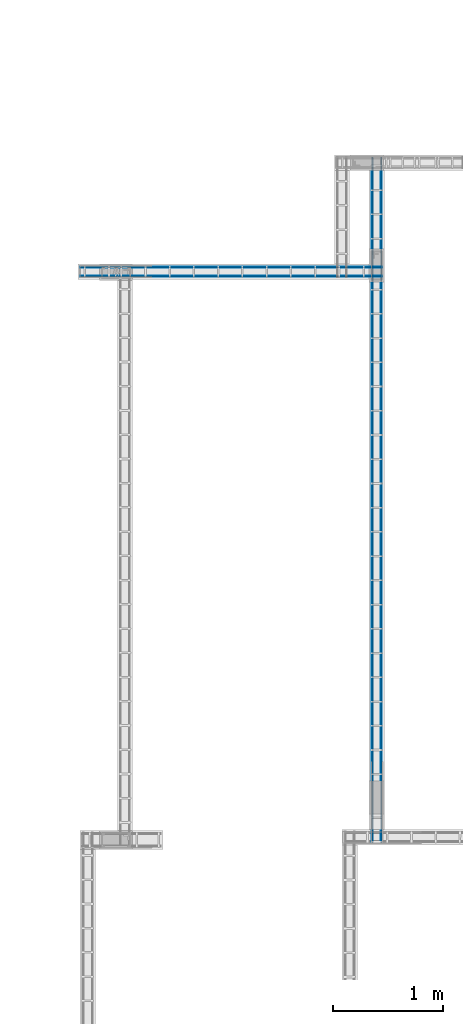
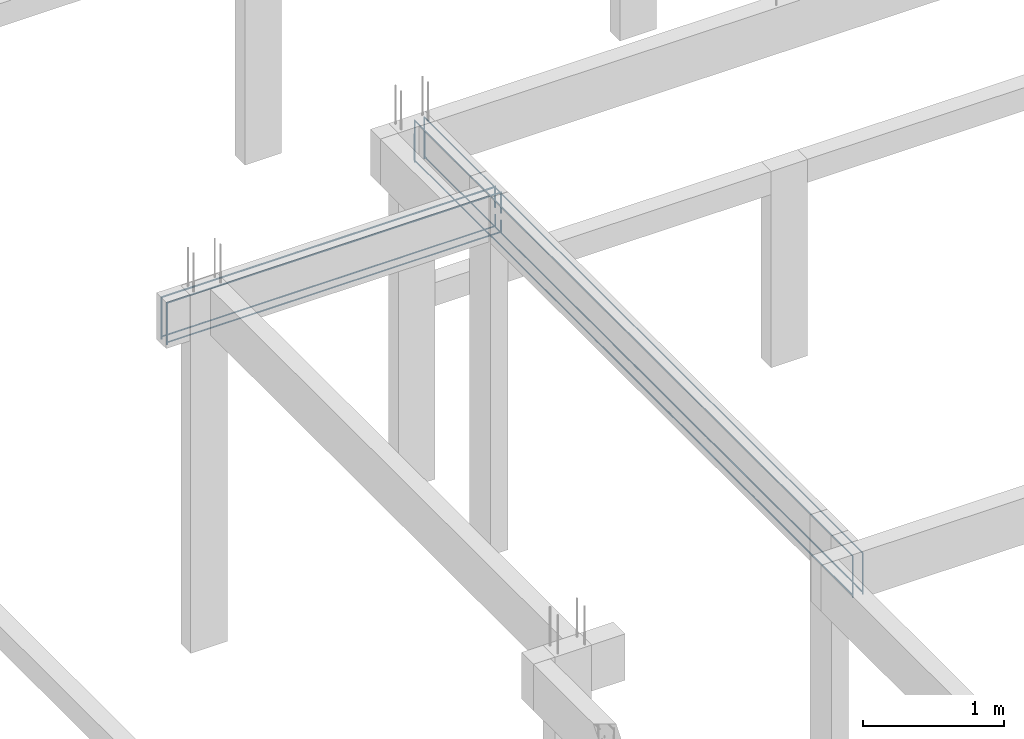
# One storey, part 124 of 236: 8 reinforcing bars.
"""IFC4 building model written with IfcOpenShell, lengths in centimetres."""

import ifcopenshell
import ifcopenshell.guid

model = None  # the IFC model being written
_history = None  # IfcOwnerHistory: only IFC2X3 demands one
_inside = {}  # id of a spatial element -> (the spatial element, [elements in it])
_under = {}  # id of a project, library or spatial element -> (it, [spatial elements below it])
_declared = {}  # id of a project -> (the project, [libraries it declares])
_typed = {}  # id of a type object -> (the type object, [elements of that type])
_made_of = {}  # id of a material, layer set ... -> (it, [elements and type objects made of it])


def new_model(schema):
    """Start an empty IFC model of exactly this schema.

    Asked for "IFC4X3", IfcOpenShell would pick the latest addendum, in which some entities
    have other attributes; the version numbers below select the first issue.
    IFC2X3 requires an IfcOwnerHistory on every rooted entity: one is made here for all.
    """
    global model, _history
    if schema == "IFC4X3":
        model = ifcopenshell.file(schema_version=(4, 3, 0, 0))
    else:
        model = ifcopenshell.file(schema=schema)
    _inside.clear()
    _under.clear()
    _declared.clear()
    _typed.clear()
    _made_of.clear()
    _history = None
    if model.schema == "IFC2X3":
        org = make("IfcOrganization", Name="unknown")
        user = make(
            "IfcPersonAndOrganization",
            ThePerson=make("IfcPerson", FamilyName="unknown"),
            TheOrganization=org,
        )
        app = make(
            "IfcApplication",
            ApplicationDeveloper=org,
            Version="unknown",
            ApplicationFullName="unknown",
            ApplicationIdentifier="unknown",
        )
        _history = make(
            "IfcOwnerHistory",
            OwningUser=user,
            OwningApplication=app,
            ChangeAction="ADDED",
            CreationDate=0,
        )
    return model


def make(cls, **values):
    """One entity of the class cls with the attributes given. An attribute that is None is left unset."""
    return model.create_entity(
        cls, **{name: value for name, value in values.items() if value is not None}
    )


def entity(cls, *values):
    """Any entity or typed value of the class cls, its attributes in the order of the schema. None: left unset."""
    e = model.create_entity(cls)
    for i, value in enumerate(values):
        if value is not None:
            e[i] = value
    return e


def rooted(cls, **values):
    """An entity with a GlobalId (a new one), such as an element, a storey or a relation."""
    return make(cls, GlobalId=ifcopenshell.guid.new(), OwnerHistory=_history, **values)


def si_unit(unit_type, name, prefix=None):
    """IfcSIUnit, for example si_unit("LENGTHUNIT", "METRE", prefix="MILLI")."""
    return make("IfcSIUnit", UnitType=unit_type, Prefix=prefix, Name=name)


def derived_unit(unit_type, elements):
    """IfcDerivedUnit: a product of units, each with its exponent."""
    return make(
        "IfcDerivedUnit",
        Elements=[
            make("IfcDerivedUnitElement", Unit=unit, Exponent=power)
            for unit, power in elements
        ],
        UnitType=unit_type,
    )


def assignment(units):
    """IfcUnitAssignment: the units of a project."""
    return None if units is None else make("IfcUnitAssignment", Units=units)


def point(xyz):
    """IfcCartesianPoint."""
    return None if xyz is None else make("IfcCartesianPoint", Coordinates=xyz)


def direction(xyz):
    """IfcDirection."""
    return None if xyz is None else make("IfcDirection", DirectionRatios=xyz)


def frame(location, z_axis=None, x_axis=None):
    """IfcAxis2Placement3D, a coordinate frame: its origin and axes. An axis left out is left unset."""
    return make(
        "IfcAxis2Placement3D",
        Location=point(location),
        Axis=direction(z_axis),
        RefDirection=direction(x_axis),
    )


def origin_with_axes():
    """The frame at (0, 0, 0) with the z axis (0, 0, 1) and the x axis (1, 0, 0) written out."""
    return frame((0.0, 0.0, 0.0), z_axis=(0.0, 0.0, 1.0), x_axis=(1.0, 0.0, 0.0))


def place(relative_to, where):
    """IfcLocalPlacement: puts the frame where relative to a parent placement (None: the world)."""
    return make(
        "IfcLocalPlacement", PlacementRelTo=relative_to, RelativePlacement=where
    )


def context(
    kind, dimensions, precision=None, world=None, true_north=None, identifier=None
):
    """IfcGeometricRepresentationContext, for example the 3D "Model" context."""
    return make(
        "IfcGeometricRepresentationContext",
        ContextIdentifier=identifier,
        ContextType=kind,
        CoordinateSpaceDimension=dimensions,
        Precision=precision,
        WorldCoordinateSystem=world,
        TrueNorth=true_north,
    )


def project(units=None, contexts=None):
    """IfcProject with its units and contexts."""
    return rooted(
        "IfcProject",
        Name="project",
        RepresentationContexts=contexts,
        UnitsInContext=assignment(units),
    )


def spatial(cls, under=None, at=None, **own):
    """A site, building, storey or space (cls), placed at a placement, below another one or the project."""
    s = rooted(cls, ObjectPlacement=at, **own)
    if under is not None:
        _under.setdefault(under.id(), (under, []))[1].append(s)
    return s


def shape(context_of_items, identifier, shape_type, items):
    """IfcShapeRepresentation: the items that make up one representation, for example the "Body"."""
    return make(
        "IfcShapeRepresentation",
        ContextOfItems=context_of_items,
        RepresentationIdentifier=identifier,
        RepresentationType=shape_type,
        Items=items,
    )


def made_of(thing, what):
    """Note that an element or type object is made of a material, layer set ...; save() writes the relation."""
    if what is not None:
        _made_of.setdefault(what.id(), (what, []))[1].append(thing)
    return thing


def element(
    cls,
    number,
    at=None,
    inside=None,
    cuts=None,
    type_object=None,
    material=None,
    context=None,
    identifier="Body",
    shape_type=None,
    held_by="IfcProductDefinitionShape",
    body=None,
    shapes=None,
    **own,
):
    """One element of the class cls, such as IfcWall. Its Tag is "e" and its number.

    at: its placement. inside: the storey or other place that contains it. cuts: it is an
    opening in that element (IfcRelVoidsElement). A single representation is given by context,
    identifier, shape_type and body (its items); several are given by shapes. held_by: the class
    of the entity that holds the representations. save() writes the other relations.
    """
    e = rooted(cls, Tag="e%d" % number, ObjectPlacement=at, **own)
    if body is not None:
        shapes = [shape(context, identifier, shape_type, body)]
    if shapes is not None:
        e.Representation = make(held_by, Representations=shapes)
    if inside is not None:
        _inside.setdefault(inside.id(), (inside, []))[1].append(e)
    if cuts is not None:
        rooted(
            "IfcRelVoidsElement", RelatingBuildingElement=cuts, RelatedOpeningElement=e
        )
    if type_object is not None:
        _typed.setdefault(type_object.id(), (type_object, []))[1].append(e)
    return made_of(e, material)


def aggregate(whole, parts):
    """IfcRelAggregates: a whole, such as a stair, and the parts it consists of."""
    return rooted("IfcRelAggregates", RelatingObject=whole, RelatedObjects=parts)


def save(model, path):
    """Write the relations noted so far, then the file.

    IfcRelAggregates (storeys below a building ...), IfcRelContainedInSpatialStructure (elements
    in a storey), IfcRelDefinesByType, IfcRelAssociatesMaterial and IfcRelDeclares: one each for
    every whole, place, type object, material and project.
    """
    for whole, parts in _under.values():
        aggregate(whole, parts)
    for where, things in _inside.values():
        rooted(
            "IfcRelContainedInSpatialStructure",
            RelatedElements=things,
            RelatingStructure=where,
        )
    for kind, things in _typed.values():
        rooted("IfcRelDefinesByType", RelatedObjects=things, RelatingType=kind)
    for what, things in _made_of.values():
        rooted("IfcRelAssociatesMaterial", RelatedObjects=things, RelatingMaterial=what)
    for by, libraries in _declared.values():
        rooted("IfcRelDeclares", RelatingContext=by, RelatedDefinitions=libraries)
    model.write(path)


model = new_model("IFC4")

# Units and contexts
model_context = context("Model", 3, precision=1e-05, world=origin_with_axes(), identifier="Body")
ifc_project = project(units=[si_unit("LENGTHUNIT", "METRE", prefix="CENTI"), si_unit("VOLUMEUNIT", "CUBIC_METRE"), si_unit("AREAUNIT", "SQUARE_METRE"), si_unit("POWERUNIT", "WATT"), si_unit("LUMINOUSFLUXUNIT", "LUMEN"), si_unit("ELECTRICCURRENTUNIT", "AMPERE"), si_unit("PRESSUREUNIT", "PASCAL", prefix="KILO"), si_unit("MASSUNIT", "GRAM", prefix="KILO"), si_unit("PLANEANGLEUNIT", "RADIAN"), derived_unit("VOLUMETRICFLOWRATEUNIT", [(si_unit("LENGTHUNIT", "METRE"), 3), (si_unit("TIMEUNIT", "SECOND"), -1)])], contexts=[model_context])

# Site, building, storey
site_placement = place(None, frame((-4000.0, 0.0, 0.0), z_axis=(0.0, 0.0, 1.0), x_axis=(1.0, 0.0, 0.0)))
site = spatial("IfcSite", under=ifc_project, at=site_placement, Name="PADRÃO")
building_placement = place(site_placement, frame((0.0, 0.0, -14.0)))
building = spatial("IfcBuilding", under=site, at=building_placement, Name="CRECHE PRÉ-ESCOLA TIPO 2")
placement_1 = place(building_placement, origin_with_axes())
placement_2 = place(placement_1, frame((0.0, 0.0, 30.0), z_axis=(0.0, 0.0, 1.0), x_axis=(1.0, 0.0, 0.0)))
storey_placement = place(placement_2, frame((0.0, 0.0, 310.0), z_axis=(0.0, 0.0, 1.0), x_axis=(1.0, 0.0, 0.0)))
storey = spatial("IfcBuildingStorey", under=building, at=storey_placement, Name="TERREO", CompositionType="ELEMENT", Elevation=326.0)

# Reinforcing bars
for number, where, z_axis, x_axis, name in (
    (1, (371.5918751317, 3981.9, -27.1), (0.0, 0.0, 1.0), (1.0, 0.0, 0.0), "V203 - Longitudinal inferior"),
    (2, (371.5918751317, 3990.1, -27.1), (0.0, 0.0, 1.0), (1.0, 0.0, 0.0), "V203 - Longitudinal inferior"),
):
    element("IfcReinforcingBar", number, at=place(storey_placement, frame(where, z_axis=z_axis, x_axis=x_axis)), inside=storey, Name=name, BarLength=0.0, CrossSectionArea=5.0265482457e-05, NominalDiameter=0.8, PredefinedType="MAIN", context=model_context, shape_type="AdvancedSweptSolid", body=[
        entity("IfcSweptDiskSolid", entity("IfcCompositeCurve", [entity("IfcCompositeCurveSegment", "CONTINUOUS", True, entity("IfcPolyline", [entity("IfcCartesianPoint", [-137.0818751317, 0.0, -10.0]), entity("IfcCartesianPoint", [136.6781248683, 0.0, -10.0])])), entity("IfcCompositeCurveSegment", "CONTINUOUS", True, entity("IfcPolyline", [entity("IfcCartesianPoint", [136.6781248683, 0.0, -10.0]), entity("IfcCartesianPoint", [136.6781248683, 0.0, 0.0])]))], False), 0.4),
    ])
for number, where, z_axis, x_axis, name in (
    (3, (371.59, 3982.0, -2.49531217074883), (0.0, 0.0, 1.0), (1.0, 0.0, 0.0), "V203 - Longitudinal superior"),
    (4, (371.59, 3990.0, -2.49531217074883), (0.0, 0.0, 1.0), (1.0, 0.0, 0.0), "V203 - Longitudinal superior"),
):
    element("IfcReinforcingBar", number, at=place(storey_placement, frame(where, z_axis=z_axis, x_axis=x_axis)), inside=storey, Name=name, BarLength=0.0, CrossSectionArea=7.853981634e-05, NominalDiameter=1.0, PredefinedType="MAIN", context=model_context, shape_type="AdvancedSweptSolid", body=[
        entity("IfcSweptDiskSolid", entity("IfcCompositeCurve", [entity("IfcCompositeCurveSegment", "CONTINUOUS", True, entity("IfcPolyline", [entity("IfcCartesianPoint", [-136.58, 0.0, -36.5046878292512]), entity("IfcCartesianPoint", [-136.58, 0.0, -0.504687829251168])])), entity("IfcCompositeCurveSegment", "CONTINUOUS", True, entity("IfcPolyline", [entity("IfcCartesianPoint", [-136.58, 0.0, -0.504687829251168]), entity("IfcCartesianPoint", [136.58, 0.0, -0.504687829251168])])), entity("IfcCompositeCurveSegment", "CONTINUOUS", True, entity("IfcPolyline", [entity("IfcCartesianPoint", [136.58, 0.0, -0.504687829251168]), entity("IfcCartesianPoint", [136.58, 0.0, -18.3428579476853])]))], False), 0.5),
    ])
for number, where, z_axis, x_axis, name in (
    (5, (507.76, 3778.74500383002, -14.8022873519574), (0.0, 0.0, 1.0), (1.0, 0.0, 0.0), "V272 - Longitudinal inferior"),
    (6, (499.56, 3778.74500383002, -14.8022873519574), (0.0, 0.0, 1.0), (1.0, 0.0, 0.0), "V272 - Longitudinal inferior"),
):
    element("IfcReinforcingBar", number, at=place(storey_placement, frame(where, z_axis=z_axis, x_axis=x_axis)), inside=storey, Name=name, BarLength=0.0, CrossSectionArea=5.0265482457e-05, NominalDiameter=0.8, PredefinedType="MAIN", context=model_context, shape_type="AdvancedSweptSolid", body=[
        entity("IfcSweptDiskSolid", entity("IfcCompositeCurve", [entity("IfcCompositeCurveSegment", "CONTINUOUS", True, entity("IfcPolyline", [entity("IfcCartesianPoint", [0.0, -310.855003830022, 0.0]), entity("IfcCartesianPoint", [0.0, -310.855003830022, -22.2977126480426])])), entity("IfcCompositeCurveSegment", "CONTINUOUS", True, entity("IfcPolyline", [entity("IfcCartesianPoint", [0.0, -310.855003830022, -22.2977126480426]), entity("IfcCartesianPoint", [0.0, 310.855003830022, -22.2977126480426])])), entity("IfcCompositeCurveSegment", "CONTINUOUS", True, entity("IfcPolyline", [entity("IfcCartesianPoint", [0.0, 310.855003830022, -22.2977126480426]), entity("IfcCartesianPoint", [0.0, 310.855003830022, 0.0])]))], False), 0.4),
    ])
for number, where, z_axis, x_axis, name in (
    (7, (507.66, 3778.74500383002, -2.49531217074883), (0.0, 0.0, 1.0), (1.0, 0.0, 0.0), "V272 - Longitudinal superior"),
    (8, (499.66, 3778.74500383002, -2.49531217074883), (0.0, 0.0, 1.0), (1.0, 0.0, 0.0), "V272 - Longitudinal superior"),
):
    element("IfcReinforcingBar", number, at=place(storey_placement, frame(where, z_axis=z_axis, x_axis=x_axis)), inside=storey, Name=name, BarLength=0.0, CrossSectionArea=7.853981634e-05, NominalDiameter=1.0, PredefinedType="MAIN", context=model_context, shape_type="AdvancedSweptSolid", body=[
        entity("IfcSweptDiskSolid", entity("IfcCompositeCurve", [entity("IfcCompositeCurveSegment", "CONTINUOUS", True, entity("IfcPolyline", [entity("IfcCartesianPoint", [0.0, -310.755003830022, -36.5046878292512]), entity("IfcCartesianPoint", [0.0, -310.755003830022, -0.504687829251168])])), entity("IfcCompositeCurveSegment", "CONTINUOUS", True, entity("IfcPolyline", [entity("IfcCartesianPoint", [0.0, -310.755003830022, -0.504687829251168]), entity("IfcCartesianPoint", [0.0, 310.755003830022, -0.504687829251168])])), entity("IfcCompositeCurveSegment", "CONTINUOUS", True, entity("IfcPolyline", [entity("IfcCartesianPoint", [0.0, 310.755003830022, -0.504687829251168]), entity("IfcCartesianPoint", [0.0, 310.755003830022, -36.5046878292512])]))], False), 0.5),
    ])

save(model, "model.ifc")
